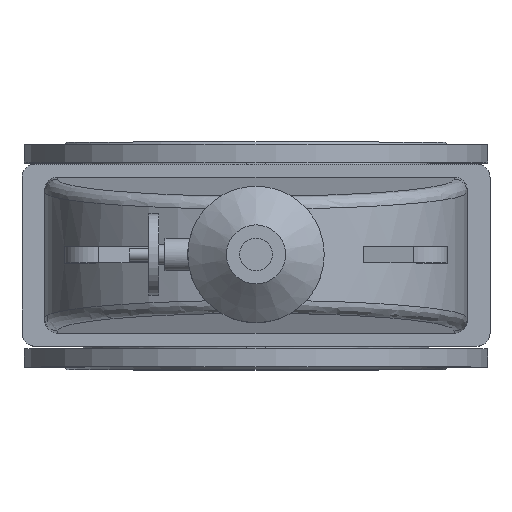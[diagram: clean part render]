
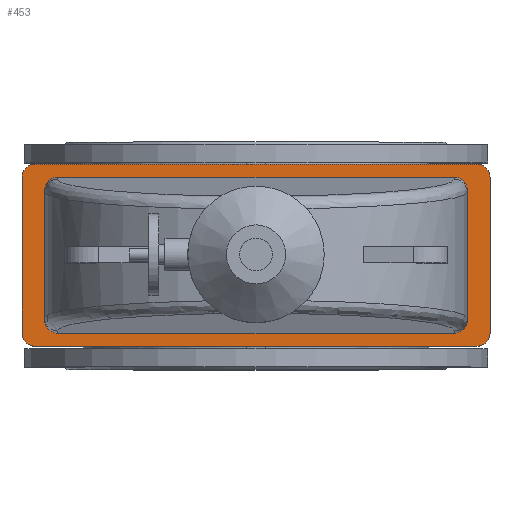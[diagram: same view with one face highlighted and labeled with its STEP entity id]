
A CAD part, top view. The second image highlights one B-rep face of the part: STEP entity #453.
In plain terms, the highlighted planar face has unit normal (0, 0, 1).
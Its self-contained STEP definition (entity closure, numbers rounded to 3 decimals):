
#453=ADVANCED_FACE('',(#4329,#4331),#4333,.T.);
#4329=FACE_BOUND('',#4330,.T.);
#4330=EDGE_LOOP('',(#8422,#8423,#8424,#8425,#8426,#8427,#8428,#8429));
#4331=FACE_BOUND('',#4332,.T.);
#4332=EDGE_LOOP('',(#8430,#8431,#8432,#8433,#8434,#8435,#8436,#8437));
#4333=PLANE('',#4334);
#4334=AXIS2_PLACEMENT_3D('',#4335,#4336,#4337);
#4335=CARTESIAN_POINT('',(0.,0.,746.));
#4336=DIRECTION('',(0.,-0.,1.));
#4337=DIRECTION('',(0.,1.,0.));
#8422=ORIENTED_EDGE('',*,*,#10202,.F.);
#8423=ORIENTED_EDGE('',*,*,#10203,.T.);
#8424=ORIENTED_EDGE('',*,*,#10204,.F.);
#8425=ORIENTED_EDGE('',*,*,#10205,.T.);
#8426=ORIENTED_EDGE('',*,*,#10206,.F.);
#8427=ORIENTED_EDGE('',*,*,#10207,.T.);
#8428=ORIENTED_EDGE('',*,*,#10208,.F.);
#8429=ORIENTED_EDGE('',*,*,#10209,.T.);
#8430=ORIENTED_EDGE('',*,*,#10200,.F.);
#8431=ORIENTED_EDGE('',*,*,#10199,.F.);
#8432=ORIENTED_EDGE('',*,*,#10201,.F.);
#8433=ORIENTED_EDGE('',*,*,#10174,.F.);
#8434=ORIENTED_EDGE('',*,*,#10210,.F.);
#8435=ORIENTED_EDGE('',*,*,#10211,.F.);
#8436=ORIENTED_EDGE('',*,*,#10212,.F.);
#8437=ORIENTED_EDGE('',*,*,#10167,.F.);
#10167=EDGE_CURVE('',#11127,#11129,#11130,.T.);
#10174=EDGE_CURVE('',#11139,#11137,#11141,.T.);
#10199=EDGE_CURVE('',#11180,#11178,#11182,.T.);
#10200=EDGE_CURVE('',#11178,#11127,#11183,.F.);
#10201=EDGE_CURVE('',#11137,#11180,#11184,.T.);
#10202=EDGE_CURVE('',#11185,#11186,#11187,.F.);
#10203=EDGE_CURVE('',#11185,#11188,#11189,.T.);
#10204=EDGE_CURVE('',#11190,#11188,#11191,.F.);
#10205=EDGE_CURVE('',#11190,#11192,#11193,.T.);
#10206=EDGE_CURVE('',#11194,#11192,#11195,.F.);
#10207=EDGE_CURVE('',#11194,#11196,#11197,.T.);
#10208=EDGE_CURVE('',#11198,#11196,#11199,.F.);
#10209=EDGE_CURVE('',#11198,#11186,#11200,.T.);
#10210=EDGE_CURVE('',#11201,#11139,#11202,.F.);
#10211=EDGE_CURVE('',#11203,#11201,#11204,.T.);
#10212=EDGE_CURVE('',#11129,#11203,#11205,.T.);
#11127=VERTEX_POINT('',#12914);
#11129=VERTEX_POINT('',#12918);
#11130=LINE('',#12919,#12920);
#11137=VERTEX_POINT('',#12939);
#11139=VERTEX_POINT('',#12943);
#11141=LINE('',#12947,#12948);
#11178=VERTEX_POINT('',#13040);
#11180=VERTEX_POINT('',#13044);
#11182=LINE('',#13048,#13049);
#11183=(BOUNDED_CURVE()B_SPLINE_CURVE(3,
(#13051,#13052,#13053,#13054),
.UNSPECIFIED.,.F.,.F.)B_SPLINE_CURVE_WITH_KNOTS((4,4),
(0.,1.),
.UNSPECIFIED.)CURVE()GEOMETRIC_REPRESENTATION_ITEM()RATIONAL_B_SPLINE_CURVE((1.,
0.805,0.805,1.))REPRESENTATION_ITEM(''));
#11184=(BOUNDED_CURVE()B_SPLINE_CURVE(3,
(#13055,#13056,#13057,#13058),
.UNSPECIFIED.,.F.,.F.)B_SPLINE_CURVE_WITH_KNOTS((4,4),
(0.,1.),
.UNSPECIFIED.)CURVE()GEOMETRIC_REPRESENTATION_ITEM()RATIONAL_B_SPLINE_CURVE((1.,
0.805,0.805,1.))REPRESENTATION_ITEM(''));
#11185=VERTEX_POINT('',#13059);
#11186=VERTEX_POINT('',#13060);
#11187=CIRCLE('',#13061,20.);
#11188=VERTEX_POINT('',#13065);
#11189=LINE('',#13066,#13067);
#11190=VERTEX_POINT('',#13069);
#11191=CIRCLE('',#13070,20.);
#11192=VERTEX_POINT('',#13074);
#11193=LINE('',#13075,#13076);
#11194=VERTEX_POINT('',#13078);
#11195=CIRCLE('',#13079,20.);
#11196=VERTEX_POINT('',#13083);
#11197=LINE('',#13084,#13085);
#11198=VERTEX_POINT('',#13087);
#11199=CIRCLE('',#13088,20.);
#11200=LINE('',#13092,#13093);
#11201=VERTEX_POINT('',#13095);
#11202=(BOUNDED_CURVE()B_SPLINE_CURVE(3,
(#13096,#13097,#13098,#13099),
.UNSPECIFIED.,.F.,.F.)B_SPLINE_CURVE_WITH_KNOTS((4,4),
(0.,1.),
.UNSPECIFIED.)CURVE()GEOMETRIC_REPRESENTATION_ITEM()RATIONAL_B_SPLINE_CURVE((1.,
0.805,0.805,1.))REPRESENTATION_ITEM(''));
#11203=VERTEX_POINT('',#13100);
#11204=LINE('',#13101,#13102);
#11205=(BOUNDED_CURVE()B_SPLINE_CURVE(3,
(#13104,#13105,#13106,#13107),
.UNSPECIFIED.,.F.,.F.)B_SPLINE_CURVE_WITH_KNOTS((4,4),
(0.,1.),
.UNSPECIFIED.)CURVE()GEOMETRIC_REPRESENTATION_ITEM()RATIONAL_B_SPLINE_CURVE((1.,
0.805,0.805,1.))REPRESENTATION_ITEM(''));
#12914=CARTESIAN_POINT('',(325.,-99.924,746.));
#12918=CARTESIAN_POINT('',(325.,99.924,746.));
#12919=CARTESIAN_POINT('',(325.,-99.924,746.));
#12920=VECTOR('',#12921,1.);
#12921=DIRECTION('',(0.,1.,0.));
#12939=CARTESIAN_POINT('',(-325.,-99.924,746.));
#12943=CARTESIAN_POINT('',(-325.,99.924,746.));
#12947=CARTESIAN_POINT('',(-325.,99.924,746.));
#12948=VECTOR('',#12949,1.);
#12949=DIRECTION('',(0.,-1.,0.));
#13040=CARTESIAN_POINT('',(305.,-120.,746.));
#13044=CARTESIAN_POINT('',(-305.,-120.,746.));
#13048=CARTESIAN_POINT('',(-305.,-120.,746.));
#13049=VECTOR('',#13050,1.);
#13050=DIRECTION('',(1.,0.,0.));
#13051=CARTESIAN_POINT('',(325.,-99.924,746.));
#13052=CARTESIAN_POINT('',(325.,-111.684,746.));
#13053=CARTESIAN_POINT('',(316.716,-120.,746.));
#13054=CARTESIAN_POINT('',(305.,-120.,746.));
#13055=CARTESIAN_POINT('',(-325.,-99.924,746.));
#13056=CARTESIAN_POINT('',(-325.,-111.684,746.));
#13057=CARTESIAN_POINT('',(-316.716,-120.,746.));
#13058=CARTESIAN_POINT('',(-305.,-120.,746.));
#13059=CARTESIAN_POINT('',(-340.,-140.,746.));
#13060=CARTESIAN_POINT('',(-360.,-120.,746.));
#13061=AXIS2_PLACEMENT_3D('',#13062,#13063,#13064);
#13062=CARTESIAN_POINT('',(-340.,-120.,746.));
#13063=DIRECTION('',(0.,-0.,1.));
#13064=DIRECTION('',(-1.,0.,0.));
#13065=CARTESIAN_POINT('',(340.,-140.,746.));
#13066=CARTESIAN_POINT('',(-340.,-140.,746.));
#13067=VECTOR('',#13068,1.);
#13068=DIRECTION('',(1.,0.,0.));
#13069=CARTESIAN_POINT('',(360.,-120.,746.));
#13070=AXIS2_PLACEMENT_3D('',#13071,#13072,#13073);
#13071=CARTESIAN_POINT('',(340.,-120.,746.));
#13072=DIRECTION('',(0.,-0.,1.));
#13073=DIRECTION('',(0.,-1.,0.));
#13074=CARTESIAN_POINT('',(360.,120.,746.));
#13075=CARTESIAN_POINT('',(360.,-120.,746.));
#13076=VECTOR('',#13077,1.);
#13077=DIRECTION('',(0.,1.,0.));
#13078=CARTESIAN_POINT('',(340.,140.,746.));
#13079=AXIS2_PLACEMENT_3D('',#13080,#13081,#13082);
#13080=CARTESIAN_POINT('',(340.,120.,746.));
#13081=DIRECTION('',(0.,-0.,1.));
#13082=DIRECTION('',(1.,0.,0.));
#13083=CARTESIAN_POINT('',(-340.,140.,746.));
#13084=CARTESIAN_POINT('',(340.,140.,746.));
#13085=VECTOR('',#13086,1.);
#13086=DIRECTION('',(-1.,0.,0.));
#13087=CARTESIAN_POINT('',(-360.,120.,746.));
#13088=AXIS2_PLACEMENT_3D('',#13089,#13090,#13091);
#13089=CARTESIAN_POINT('',(-340.,120.,746.));
#13090=DIRECTION('',(0.,-0.,1.));
#13091=DIRECTION('',(0.,1.,0.));
#13092=CARTESIAN_POINT('',(-360.,120.,746.));
#13093=VECTOR('',#13094,1.);
#13094=DIRECTION('',(0.,-1.,0.));
#13095=CARTESIAN_POINT('',(-305.,120.,746.));
#13096=CARTESIAN_POINT('',(-325.,99.924,746.));
#13097=CARTESIAN_POINT('',(-325.,111.684,746.));
#13098=CARTESIAN_POINT('',(-316.716,120.,746.));
#13099=CARTESIAN_POINT('',(-305.,120.,746.));
#13100=CARTESIAN_POINT('',(305.,120.,746.));
#13101=CARTESIAN_POINT('',(305.,120.,746.));
#13102=VECTOR('',#13103,1.);
#13103=DIRECTION('',(-1.,0.,0.));
#13104=CARTESIAN_POINT('',(325.,99.924,746.));
#13105=CARTESIAN_POINT('',(325.,111.684,746.));
#13106=CARTESIAN_POINT('',(316.716,120.,746.));
#13107=CARTESIAN_POINT('',(305.,120.,746.));
